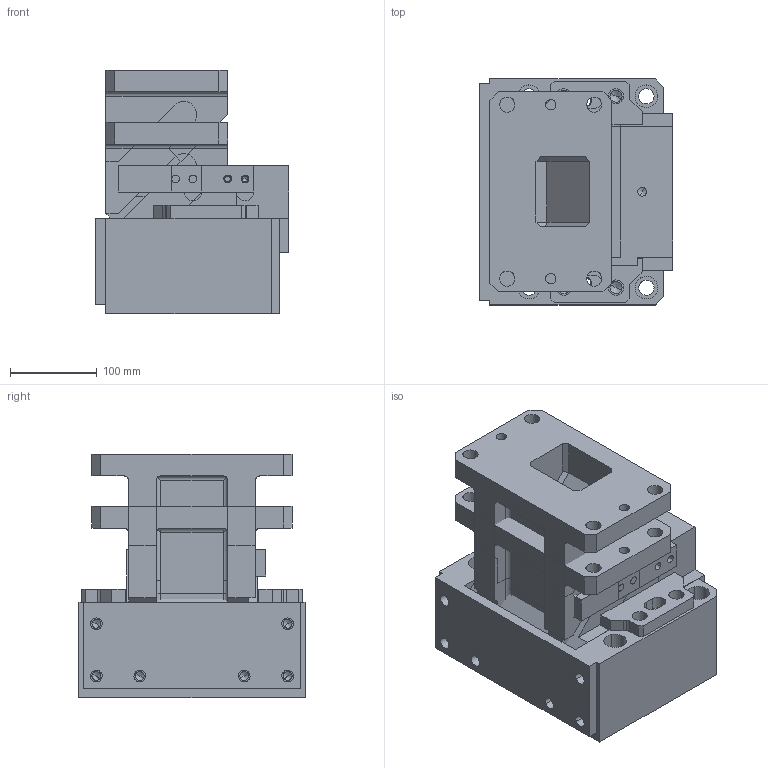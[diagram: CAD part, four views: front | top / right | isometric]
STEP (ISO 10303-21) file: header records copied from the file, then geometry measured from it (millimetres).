
FILE_DESCRIPTION(('CATIA V5 STEP','CAx-IF Rec.Pracs.--- Model Styling and Organization---1.4--- 2014-01-23','CAx-IF Rec.Pracs.---3D Tessellated Data Validation Properties---0.5---2014-09-14'),'2;1');
FILE_NAME('H:\_COMPRESS_2\2016.14.00.150.060.1.2__CM.stp','2020-11-18T12:53:13+00:00',('${USER}'),('AUDI AG, ${GROUP}'),'CATIA Version 5-6 Release 2018 SP3 HF27','CATIA V5 STEP AP242','none');
FILE_SCHEMA(('AP242_MANAGED_MODEL_BASED_3D_ENGINEERING_MIM_LF {1 0 10303 442 1 1 4}'));
Length unit declared in the file: millimetre
Products named in the file (1): 2016.14.00.150.060.1.2__CM
Bounding box: 222 x 260 x 280 mm (x, y, z)
Volume: 11614293.7 mm3; surface area: 908105.4 mm2
Topology: 4 solids, 4 shells, 566 faces, 1435 edges, 904 vertices
Faces by surface type: plane 313, cylinder 199, cone 48, sphere 4, bspline 2
Entity records: 15908 total; most frequent: CARTESIAN_POINT 3061, ORIENTED_EDGE 2792, DIRECTION 2199, EDGE_CURVE 1396, VECTOR 951, LINE 951, VERTEX_POINT 900, AXIS2_PLACEMENT_3D 826
